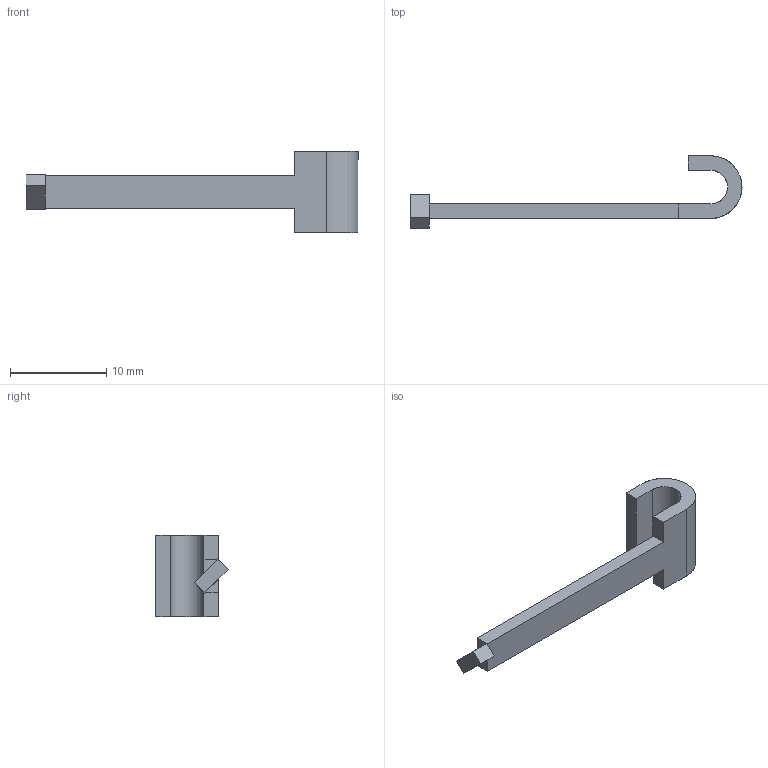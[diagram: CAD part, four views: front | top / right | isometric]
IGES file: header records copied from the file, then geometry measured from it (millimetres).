
Start section: SolidWorks IGES FILE using analytic representation for surfaces
Global section: file name: C:\Documents and Settings\lecoutey\Bureau\GP 538\538.060.00.IGS; native system: SolidWorks 2004 by SolidWorks Corporation; preprocessor: Version 5.3; author: lecoutey; date: 050329.151440; units: millimetre
Bounding box: 34.5 x 7.52 x 8.5 mm (x, y, z)
Surface area: 579.7 mm2 (no closed solid volume)
Topology: 0 solids, 0 shells, 26 faces, 188 edges, 188 vertices
Faces by surface type: bspline 24, revolution 2
